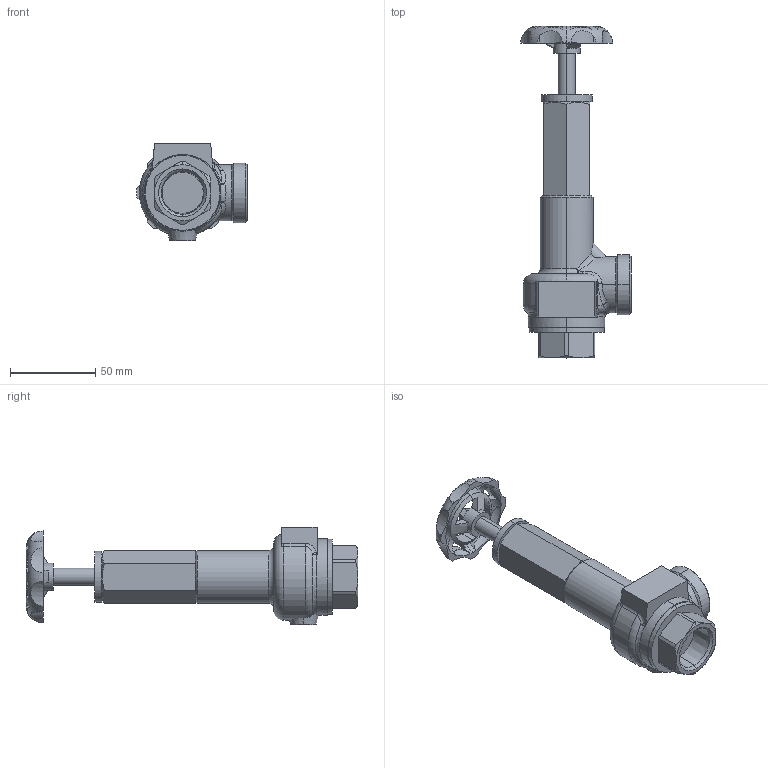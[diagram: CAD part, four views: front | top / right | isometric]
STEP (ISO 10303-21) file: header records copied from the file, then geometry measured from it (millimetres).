
FILE_DESCRIPTION (( 'STEP AP203' ), '1' );
FILE_NAME ('AL-150TR 20A.STEP', '2026-01-08T01:11:23', ( '' ), ( '' ), 'SwSTEP 2.0', 'SolidWorks 2024', '' );
FILE_SCHEMA (( 'CONFIG_CONTROL_DESIGN' ));
Length unit declared in the file: millimetre
Products named in the file (1): AL-150TR 20A
Bounding box: 64.99 x 195 x 57 mm (x, y, z)
Volume: 167639.1 mm3; surface area: 33176.9 mm2
Topology: 1 solids, 1 shells, 190 faces, 505 edges, 310 vertices
Faces by surface type: plane 71, cylinder 54, cone 30, torus 16, bspline 13, sphere 6
Entity records: 8071 total; most frequent: CARTESIAN_POINT 3405, ORIENTED_EDGE 1006, DIRECTION 932, EDGE_CURVE 503, AXIS2_PLACEMENT_3D 382, VERTEX_POINT 310, EDGE_LOOP 207, CIRCLE 204
